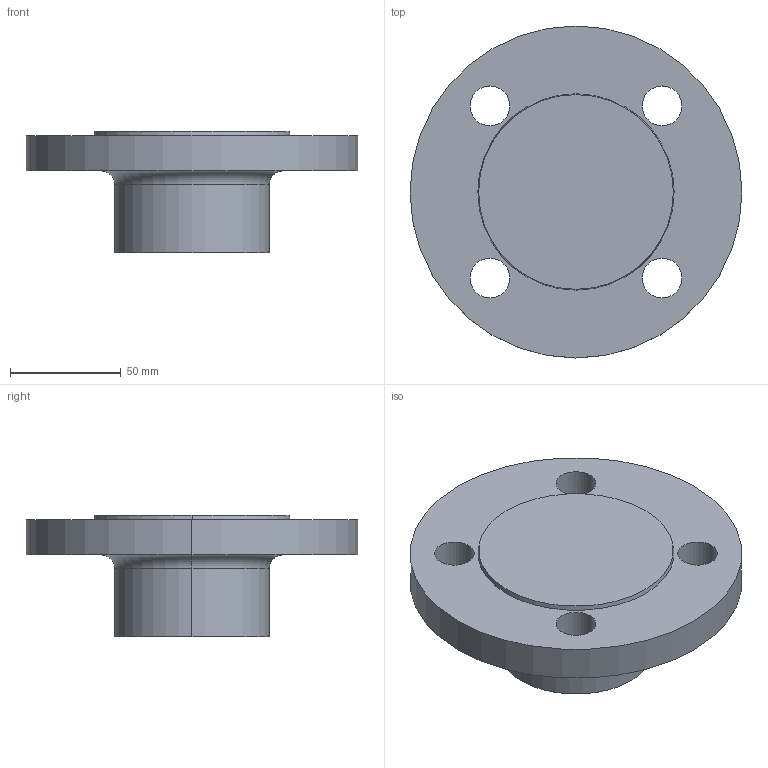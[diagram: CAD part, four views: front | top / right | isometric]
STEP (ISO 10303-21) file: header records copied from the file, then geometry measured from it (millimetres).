
FILE_DESCRIPTION (( 'STEP AP214' ), '1' );
FILE_NAME ('PN40 DN40 Type 21(i) - Type B Face.STEP', '2018-12-30T01:32:47', ( '' ), ( '' ), 'SwSTEP 2.0', 'SolidWorks 2019', '' );
FILE_SCHEMA (( 'AUTOMOTIVE_DESIGN' ));
Length unit declared in the file: millimetre
Products named in the file (1): PN40 DN40 Type 21(i) - Type B Face
Bounding box: 150 x 150 x 55 mm (x, y, z)
Volume: 422876 mm3; surface area: 52518.3 mm2
Topology: 1 solids, 1 shells, 20 faces, 46 edges, 30 vertices
Faces by surface type: cylinder 12, plane 4, torus 2, cone 2
Entity records: 636 total; most frequent: DIRECTION 120, CARTESIAN_POINT 97, ORIENTED_EDGE 92, AXIS2_PLACEMENT_3D 53, EDGE_CURVE 46, CIRCLE 32, EDGE_LOOP 30, VERTEX_POINT 30
